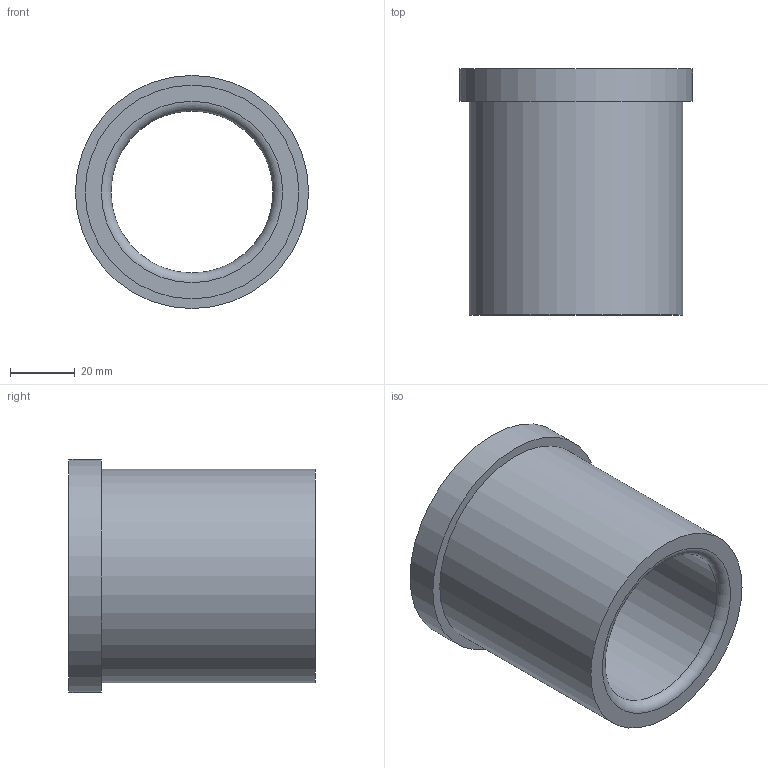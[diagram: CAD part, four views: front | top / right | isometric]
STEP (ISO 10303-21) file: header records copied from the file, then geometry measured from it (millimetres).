
FILE_DESCRIPTION(/* description */ ('STEP AP214'),/* implementation_level */ '2;1');
FILE_NAME(/* name */ '03_12_17959',/* time_stamp */ '2023-06-15T11:35:47+02:00',/* author */ ('License CC BY-ND 4.0'),/* organization */ ('CADENAS'),/* preprocessor_version */ 'ST-DEVELOPER v19.3',/* originating_system */ 'PARTsolutions',/* authorisation */ ' ');
FILE_SCHEMA (('AUTOMOTIVE_DESIGN {1 0 10303 214 3 1 1}'));
Length unit declared in the file: millimetre
Products named in the file (1): VA_Bushing_17959
Bounding box: 72 x 76 x 72 mm (x, y, z)
Volume: 115941 mm3; surface area: 31730.5 mm2
Topology: 1 solids, 1 shells, 10 faces, 16 edges, 10 vertices
Faces by surface type: cylinder 4, plane 4, torus 2
Full cylindrical faces by diameter (mm): 50 x1, 50.6 x1, 66 x1, 72 x1
Entity records: 302 total; most frequent: DIRECTION 42, CARTESIAN_POINT 31, AXIS2_PLACEMENT_3D 21, ORIENTED_EDGE 20, EDGE_LOOP 20, FACE_BOUND 20, EDGE_CURVE 10, VERTEX_POINT 10
